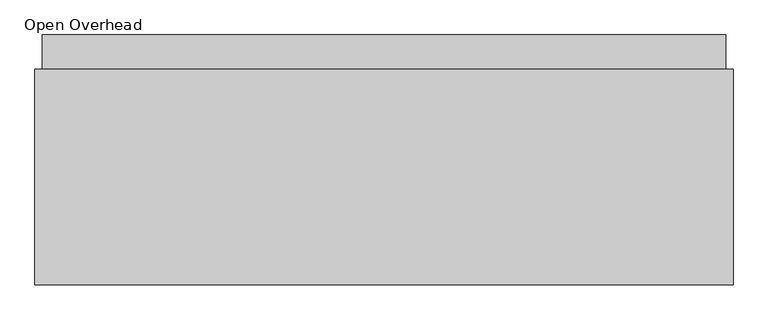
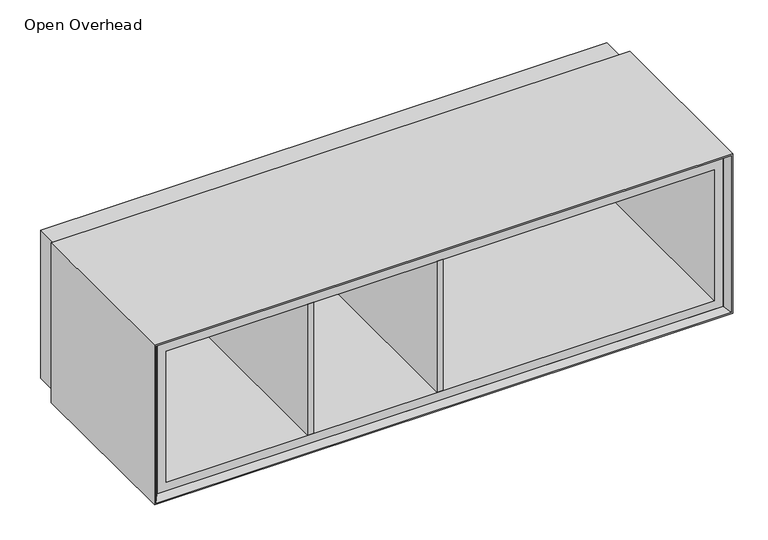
"""IFC4 building model written with IfcOpenShell, lengths in millimetres: furniture geometry."""

from ifc_helpers import new_model, si_unit, frame, origin, place, context, project, spatial, polyline, outline, extrude, faceted_brep, source, transform, mapped, element, save


def open_overhead_884717f9(model_context):
    return source(origin(), model_context, "Body", "SolidModel", [
        extrude(outline(polyline([(615.95, 376.2375), (615.95, 12.7), (603.25, 12.7), (603.25, 376.2375), (615.95, 376.2375)])), frame((0.0, 0.0, 1555.75), z_axis=(0.0, 0.0, 1.0), x_axis=(1.0, 0.0, 0.0)), (0.0, 0.0, 1.0), 292.1),
        extrude(outline(polyline([(342.9, 376.2375), (342.9, 12.7), (330.2, 12.7), (330.2, 376.2375), (342.9, 376.2375)])), frame((0.0, 0.0, 1555.75), z_axis=(0.0, 0.0, 1.0), x_axis=(1.0, 0.0, 0.0)), (0.0, 0.0, 1.0), 292.1),
        extrude(outline(polyline([(1206.5, 376.2375), (12.7, 376.2375), (12.7, 436.5625), (1206.5, 436.5625), (1206.5, 376.2375)])), frame((0.0, 0.0, 1536.7), z_axis=(0.0, 0.0, 1.0), x_axis=(1.0, 0.0, 0.0)), (0.0, 0.0, 1.0), 330.2),
        extrude(outline(polyline([(1866.9, 1206.5), (1866.9, 12.7), (1536.7, 12.7), (1536.7, 1206.5), (1866.9, 1206.5)]), holes=[polyline([(1847.85, 31.75), (1847.85, 1187.45), (1555.75, 1187.45), (1555.75, 31.75), (1847.85, 31.75)])]), frame((0.0, 12.7, 0.0), z_axis=(0.0, 1.0, 0.0), x_axis=(0.0, 0.0, 1.0)), (0.0, 0.0, 1.0), 363.5375),
        faceted_brep([(1206.5, 12.7, 1866.9), (1206.5, 376.2375, 1866.9), (1206.5, 376.2375, 1536.7), (1206.5, 12.7, 1536.7), (1216.025, 0.0, 1876.425), (1216.025, 0.0, 1527.175), (1219.2, 376.2375, 1879.6), (1219.2, 0.0, 1879.6), (1219.2, 0.0, 1524.0), (1219.2, 376.2375, 1524.0), (12.7, 376.2375, 1536.7), (12.7, 12.7, 1536.7), (3.175, 0.0, 1527.175), (0.0, 0.0, 1524.0), (0.0, 376.2375, 1524.0), (12.7, 376.2375, 1866.9), (12.7, 12.7, 1866.9), (3.175, 0.0, 1876.425), (0.0, 0.0, 1879.6), (0.0, 376.2375, 1879.6)], [[[0, 1, 2, 3]], [[4, 0, 3, 5]], [[6, 7, 8, 9]], [[3, 2, 10, 11]], [[5, 3, 11, 12]], [[9, 8, 13, 14]], [[11, 10, 15, 16]], [[12, 11, 16, 17]], [[14, 13, 18, 19]], [[9, 14, 19, 6], [1, 15, 10, 2]], [[16, 15, 1, 0]], [[17, 16, 0, 4]], [[7, 18, 13, 8], [5, 12, 17, 4]], [[19, 18, 7, 6]]]),
    ])


if __name__ == "__main__":
    model = new_model("IFC4")
    model_context = context("Model", 3, world=origin())
    ifc_project = project(units=[si_unit("LENGTHUNIT", "METRE", prefix="MILLI")], contexts=[model_context])
    site = spatial("IfcSite", under=ifc_project)
    building = spatial("IfcBuilding", under=site)
    placement = place(None, origin())
    open_overhead_shape = open_overhead_884717f9(model_context)
    element("IfcFurniture", 1, ObjectType="Open Overhead : 2 3/8\" Backpanel - 48\" W", at=placement, inside=building, context=model_context, shape_type="MappedRepresentation", body=[
        mapped(open_overhead_shape, transform((0.0, 0.0, 0.0), x_axis=(1.0, 0.0, 0.0), y_axis=(0.0, 1.0, 0.0), z_axis=(0.0, 0.0, 1.0))),
    ])
    save(model, "model.ifc")
